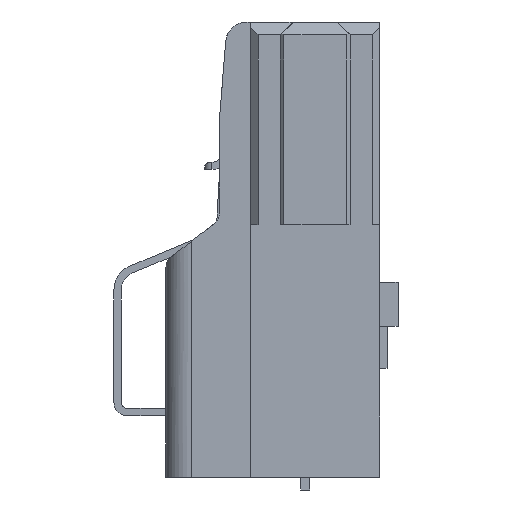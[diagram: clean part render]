
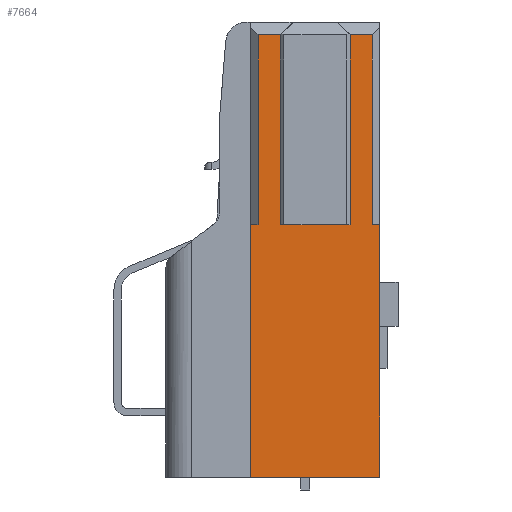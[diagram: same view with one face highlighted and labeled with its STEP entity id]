
A CAD part, left-side view. The second image highlights one B-rep face of the part: STEP entity #7664.
In plain terms, the highlighted planar face has unit normal (-1, 0, 0).
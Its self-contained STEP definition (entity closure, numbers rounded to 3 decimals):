
#457 = CARTESIAN_POINT ( 'NONE',  ( -6.605, -0.95, -0.35 ) ) ;
#1063 = CARTESIAN_POINT ( 'NONE',  ( -6.605, -1.75, -5.5 ) ) ;
#1344 = ORIENTED_EDGE ( 'NONE', *, *, #10647, .T. ) ;
#1480 = LINE ( 'NONE', #9688, #19476 ) ;
#1531 = FACE_OUTER_BOUND ( 'NONE', #13088, .T. ) ;
#1553 = VECTOR ( 'NONE', #19615, 1000. ) ;
#1851 = CARTESIAN_POINT ( 'NONE',  ( -6.605, -1.75, -12.35 ) ) ;
#2283 = LINE ( 'NONE', #5879, #20301 ) ;
#2372 = EDGE_CURVE ( 'NONE', #4535, #19128, #6022, .T. ) ;
#2593 = CARTESIAN_POINT ( 'NONE',  ( -6.605, 0.95, -0.35 ) ) ;
#2681 = CARTESIAN_POINT ( 'NONE',  ( -6.605, -1.55, -0.35 ) ) ;
#2804 = ORIENTED_EDGE ( 'NONE', *, *, #4836, .F. ) ;
#3637 = LINE ( 'NONE', #457, #8307 ) ;
#3914 = CARTESIAN_POINT ( 'NONE',  ( -6.605, 1.55, -0.35 ) ) ;
#4535 = VERTEX_POINT ( 'NONE', #14808 ) ;
#4713 = CARTESIAN_POINT ( 'NONE',  ( -6.605, 0.95, -5.5 ) ) ;
#4836 = EDGE_CURVE ( 'NONE', #4535, #13917, #22454, .T. ) ;
#4999 = VERTEX_POINT ( 'NONE', #20458 ) ;
#5111 = CARTESIAN_POINT ( 'NONE',  ( -6.605, -1.75, -5.5 ) ) ;
#5331 = VERTEX_POINT ( 'NONE', #3914 ) ;
#5718 = EDGE_CURVE ( 'NONE', #16200, #19128, #1480, .T. ) ;
#5778 = LINE ( 'NONE', #17163, #19113 ) ;
#5879 = CARTESIAN_POINT ( 'NONE',  ( -6.605, 0.95, -5.5 ) ) ;
#6022 = LINE ( 'NONE', #18235, #10679 ) ;
#6046 = DIRECTION ( 'NONE',  ( 0., 0., -1. ) ) ;
#6127 = CARTESIAN_POINT ( 'NONE',  ( -6.605, 1.75, 0. ) ) ;
#6651 = EDGE_CURVE ( 'NONE', #14647, #21093, #6891, .T. ) ;
#6702 = LINE ( 'NONE', #8854, #15446 ) ;
#6891 = LINE ( 'NONE', #18392, #11496 ) ;
#7080 = VERTEX_POINT ( 'NONE', #4713 ) ;
#7664 = ADVANCED_FACE ( 'NONE', ( #1531 ), #21760, .T. ) ;
#7912 = DIRECTION ( 'NONE',  ( 0., 0., 1. ) ) ;
#8056 = DIRECTION ( 'NONE',  ( 0., -1., 0. ) ) ;
#8307 = VECTOR ( 'NONE', #10914, 1000. ) ;
#8649 = DIRECTION ( 'NONE',  ( 0., -1., 0. ) ) ;
#8854 = CARTESIAN_POINT ( 'NONE',  ( -6.605, -1.55, -5.5 ) ) ;
#8974 = CARTESIAN_POINT ( 'NONE',  ( -6.605, 1.55, -5.5 ) ) ;
#9187 = ORIENTED_EDGE ( 'NONE', *, *, #6651, .F. ) ;
#9568 = CARTESIAN_POINT ( 'NONE',  ( -6.605, -0.95, -0.35 ) ) ;
#9688 = CARTESIAN_POINT ( 'NONE',  ( -6.605, -1.75, -12.35 ) ) ;
#10463 = AXIS2_PLACEMENT_3D ( 'NONE', #6127, #18326, #7912 ) ;
#10647 = EDGE_CURVE ( 'NONE', #5331, #13917, #5778, .T. ) ;
#10679 = VECTOR ( 'NONE', #6046, 1000. ) ;
#10914 = DIRECTION ( 'NONE',  ( 0., 0., -1. ) ) ;
#11192 = ORIENTED_EDGE ( 'NONE', *, *, #18552, .F. ) ;
#11195 = EDGE_CURVE ( 'NONE', #11539, #16200, #11464, .T. ) ;
#11198 = EDGE_CURVE ( 'NONE', #5331, #15179, #20747, .T. ) ;
#11464 = LINE ( 'NONE', #5111, #16107 ) ;
#11496 = VECTOR ( 'NONE', #8056, 1000. ) ;
#11539 = VERTEX_POINT ( 'NONE', #1063 ) ;
#12389 = DIRECTION ( 'NONE',  ( 0., -1., 0. ) ) ;
#12627 = EDGE_CURVE ( 'NONE', #15179, #7080, #20101, .T. ) ;
#12676 = CARTESIAN_POINT ( 'NONE',  ( -6.605, 1.75, -5.5 ) ) ;
#13088 = EDGE_LOOP ( 'NONE', ( #21531, #1344, #2804, #21573, #14013, #17559, #20854, #20790, #9187, #22621, #11192, #13204 ) ) ;
#13204 = ORIENTED_EDGE ( 'NONE', *, *, #12627, .F. ) ;
#13917 = VERTEX_POINT ( 'NONE', #8974 ) ;
#14013 = ORIENTED_EDGE ( 'NONE', *, *, #5718, .F. ) ;
#14271 = CARTESIAN_POINT ( 'NONE',  ( -6.605, -1.55, -0.35 ) ) ;
#14565 = VERTEX_POINT ( 'NONE', #19683 ) ;
#14647 = VERTEX_POINT ( 'NONE', #9568 ) ;
#14808 = CARTESIAN_POINT ( 'NONE',  ( -6.605, 1.75, -5.5 ) ) ;
#15179 = VERTEX_POINT ( 'NONE', #2593 ) ;
#15446 = VECTOR ( 'NONE', #12389, 1000. ) ;
#15549 = DIRECTION ( 'NONE',  ( 0., 0., -1. ) ) ;
#15583 = VECTOR ( 'NONE', #8649, 1000. ) ;
#16029 = DIRECTION ( 'NONE',  ( 0., 0., -1. ) ) ;
#16107 = VECTOR ( 'NONE', #15549, 1000. ) ;
#16200 = VERTEX_POINT ( 'NONE', #1851 ) ;
#16203 = EDGE_CURVE ( 'NONE', #4999, #11539, #6702, .T. ) ;
#16510 = CARTESIAN_POINT ( 'NONE',  ( -6.605, 1.75, -12.35 ) ) ;
#16802 = EDGE_CURVE ( 'NONE', #14647, #14565, #3637, .T. ) ;
#17163 = CARTESIAN_POINT ( 'NONE',  ( -6.605, 1.55, -0.35 ) ) ;
#17290 = VECTOR ( 'NONE', #17858, 1000. ) ;
#17305 = CARTESIAN_POINT ( 'NONE',  ( -6.605, 1.55, -0.35 ) ) ;
#17559 = ORIENTED_EDGE ( 'NONE', *, *, #11195, .F. ) ;
#17858 = DIRECTION ( 'NONE',  ( 0., -1., 0. ) ) ;
#17889 = CARTESIAN_POINT ( 'NONE',  ( -6.605, 0.95, -0.35 ) ) ;
#18235 = CARTESIAN_POINT ( 'NONE',  ( -6.605, 1.75, -5.5 ) ) ;
#18326 = DIRECTION ( 'NONE',  ( -1., 0., 0. ) ) ;
#18376 = DIRECTION ( 'NONE',  ( 0., 1., 0. ) ) ;
#18392 = CARTESIAN_POINT ( 'NONE',  ( -6.605, -0.95, -0.35 ) ) ;
#18552 = EDGE_CURVE ( 'NONE', #7080, #14565, #2283, .T. ) ;
#18862 = DIRECTION ( 'NONE',  ( 0., 0., -1. ) ) ;
#19113 = VECTOR ( 'NONE', #18862, 1000. ) ;
#19128 = VERTEX_POINT ( 'NONE', #16510 ) ;
#19476 = VECTOR ( 'NONE', #18376, 1000. ) ;
#19615 = DIRECTION ( 'NONE',  ( 0., 0., -1. ) ) ;
#19683 = CARTESIAN_POINT ( 'NONE',  ( -6.605, -0.95, -5.5 ) ) ;
#19794 = DIRECTION ( 'NONE',  ( 0., -1., 0. ) ) ;
#20101 = LINE ( 'NONE', #17889, #1553 ) ;
#20301 = VECTOR ( 'NONE', #19794, 1000. ) ;
#20458 = CARTESIAN_POINT ( 'NONE',  ( -6.605, -1.55, -5.5 ) ) ;
#20747 = LINE ( 'NONE', #17305, #15583 ) ;
#20790 = ORIENTED_EDGE ( 'NONE', *, *, #21483, .F. ) ;
#20854 = ORIENTED_EDGE ( 'NONE', *, *, #16203, .F. ) ;
#21093 = VERTEX_POINT ( 'NONE', #2681 ) ;
#21483 = EDGE_CURVE ( 'NONE', #21093, #4999, #22280, .T. ) ;
#21531 = ORIENTED_EDGE ( 'NONE', *, *, #11198, .F. ) ;
#21573 = ORIENTED_EDGE ( 'NONE', *, *, #2372, .T. ) ;
#21725 = VECTOR ( 'NONE', #16029, 1000. ) ;
#21760 = PLANE ( 'NONE',  #10463 ) ;
#22280 = LINE ( 'NONE', #14271, #21725 ) ;
#22454 = LINE ( 'NONE', #12676, #17290 ) ;
#22621 = ORIENTED_EDGE ( 'NONE', *, *, #16802, .T. ) ;
